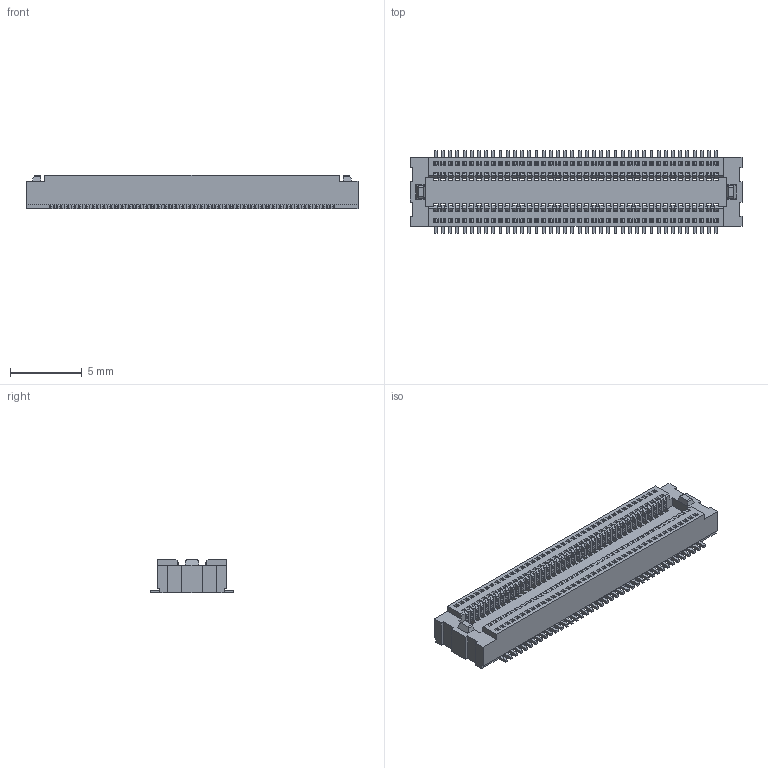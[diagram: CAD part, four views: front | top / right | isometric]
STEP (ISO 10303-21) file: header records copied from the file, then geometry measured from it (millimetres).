
FILE_DESCRIPTION(('CATIA V5 STEP Exchange'),'2;1');
FILE_NAME('F:\黄富鸿\板对板\0.5 单槽\无柱\母座\H2.35\HC-PBB05-1-80-F-H2.35-G1-R-06 (BTB0.5 单槽 母座 立贴 编带)-HCTL.stp','2026-01-20T06:54:19+00:00',('none'),('none'),'CATIA Version 5 Release 20 GA (IN-10)','CATIA V5 STEP AP203','none');
FILE_SCHEMA(('CONFIG_CONTROL_DESIGN'));
Products named in the file (1): Part2
Bounding box: 23.1 x 5.76 x 2.35 mm (x, y, z)
Volume: 168.9 mm3; surface area: 1243.3 mm2
Topology: 81 solids, 81 shells, 3574 faces, 10952 edges, 7300 vertices
Faces by surface type: plane 2450, cylinder 1124
Entity records: 103728 total; most frequent: ORIENTED_EDGE 21904, CARTESIAN_POINT 18593, DIRECTION 11468, EDGE_CURVE 10952, VECTOR 8704, LINE 8704, VERTEX_POINT 7300, EDGE_LOOP 3654
